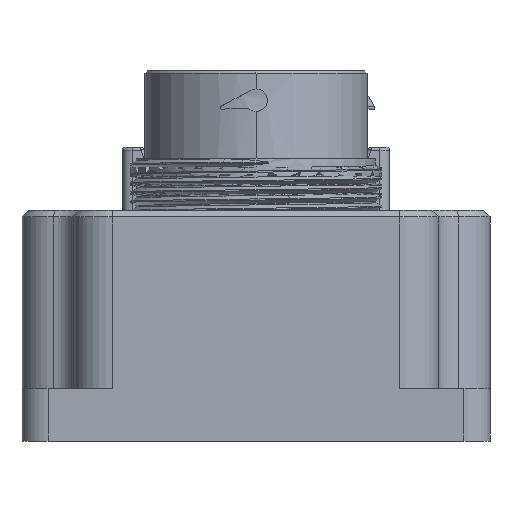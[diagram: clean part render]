
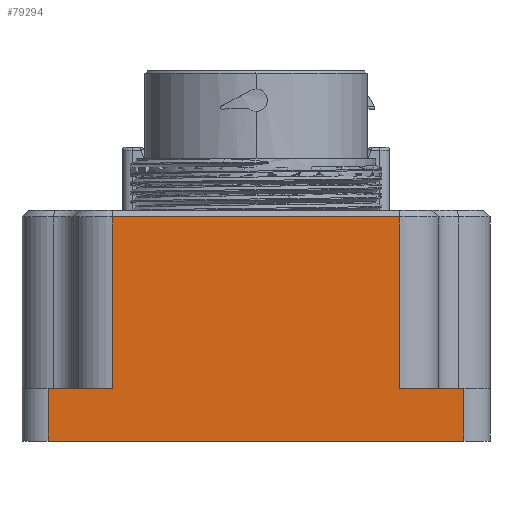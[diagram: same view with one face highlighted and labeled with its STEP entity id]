
A CAD part, left-side view. The second image highlights one B-rep face of the part: STEP entity #79294.
In plain terms, the highlighted planar face has unit normal (-1, 0, 0).
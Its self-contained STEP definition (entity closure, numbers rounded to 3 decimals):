
#3608 = DIRECTION ( 'NONE',  ( 0., 0., -1. ) ) ;
#13719 = CARTESIAN_POINT ( 'NONE',  ( -45., 31.54, 35. ) ) ;
#14210 = ORIENTED_EDGE ( 'NONE', *, *, #126884, .T. ) ;
#17323 = LINE ( 'NONE', #123537, #70939 ) ;
#19452 = CARTESIAN_POINT ( 'NONE',  ( -45., -31.54, 35. ) ) ;
#22773 = LINE ( 'NONE', #79345, #126768 ) ;
#25120 = EDGE_CURVE ( 'NONE', #110256, #104208, #30880, .T. ) ;
#26207 = VECTOR ( 'NONE', #3608, 1000. ) ;
#30880 = LINE ( 'NONE', #120100, #84435 ) ;
#41991 = ORIENTED_EDGE ( 'NONE', *, *, #121735, .F. ) ;
#44794 = VERTEX_POINT ( 'NONE', #96977 ) ;
#45186 = DIRECTION ( 'NONE',  ( 0., 0., -1. ) ) ;
#49735 = EDGE_CURVE ( 'NONE', #98629, #77612, #22773, .T. ) ;
#52779 = VERTEX_POINT ( 'NONE', #111038 ) ;
#53006 = LINE ( 'NONE', #93443, #26207 ) ;
#56446 = CARTESIAN_POINT ( 'NONE',  ( -45., -21.791, 8. ) ) ;
#57953 = VECTOR ( 'NONE', #84240, 1000. ) ;
#58416 = EDGE_CURVE ( 'NONE', #104208, #99811, #117004, .T. ) ;
#58564 = CARTESIAN_POINT ( 'NONE',  ( -45., -31.54, 8. ) ) ;
#61358 = FACE_OUTER_BOUND ( 'NONE', #127784, .T. ) ;
#63227 = DIRECTION ( 'NONE',  ( 0., 1., 0. ) ) ;
#63262 = CARTESIAN_POINT ( 'NONE',  ( -45., -21.791, 258. ) ) ;
#64801 = EDGE_CURVE ( 'NONE', #118653, #52779, #17323, .T. ) ;
#65095 = PLANE ( 'NONE',  #76482 ) ;
#68478 = ORIENTED_EDGE ( 'NONE', *, *, #25120, .F. ) ;
#68554 = CARTESIAN_POINT ( 'NONE',  ( -45., -31.54, 0. ) ) ;
#70939 = VECTOR ( 'NONE', #63227, 1000. ) ;
#75556 = LINE ( 'NONE', #105561, #102440 ) ;
#76482 = AXIS2_PLACEMENT_3D ( 'NONE', #85356, #105648, #45186 ) ;
#77612 = VERTEX_POINT ( 'NONE', #81324 ) ;
#79294 = ADVANCED_FACE ( 'NONE', ( #61358 ), #65095, .F. ) ;
#79345 = CARTESIAN_POINT ( 'NONE',  ( -45., 31.54, 8. ) ) ;
#80274 = DIRECTION ( 'NONE',  ( 0., 0., -1. ) ) ;
#81324 = CARTESIAN_POINT ( 'NONE',  ( -45., 21.791, 8. ) ) ;
#84240 = DIRECTION ( 'NONE',  ( 0., 0., -1. ) ) ;
#84435 = VECTOR ( 'NONE', #129777, 1000. ) ;
#85356 = CARTESIAN_POINT ( 'NONE',  ( -45., 31.54, 35. ) ) ;
#87055 = EDGE_CURVE ( 'NONE', #44794, #99811, #75556, .T. ) ;
#89471 = DIRECTION ( 'NONE',  ( 0., -1., 0. ) ) ;
#90289 = VECTOR ( 'NONE', #80274, 1000. ) ;
#92194 = VECTOR ( 'NONE', #103390, 1000. ) ;
#93443 = CARTESIAN_POINT ( 'NONE',  ( -45., 21.791, 258. ) ) ;
#95021 = ORIENTED_EDGE ( 'NONE', *, *, #87055, .T. ) ;
#96977 = CARTESIAN_POINT ( 'NONE',  ( -45., 31.54, 0. ) ) ;
#98629 = VERTEX_POINT ( 'NONE', #113840 ) ;
#98889 = LINE ( 'NONE', #13719, #57953 ) ;
#99072 = ORIENTED_EDGE ( 'NONE', *, *, #49735, .F. ) ;
#99811 = VERTEX_POINT ( 'NONE', #68554 ) ;
#102440 = VECTOR ( 'NONE', #125712, 1000. ) ;
#103390 = DIRECTION ( 'NONE',  ( 0., 0., -1. ) ) ;
#103963 = ORIENTED_EDGE ( 'NONE', *, *, #58416, .F. ) ;
#104208 = VERTEX_POINT ( 'NONE', #58564 ) ;
#105561 = CARTESIAN_POINT ( 'NONE',  ( -45., 31.54, 0. ) ) ;
#105648 = DIRECTION ( 'NONE',  ( 1., 0., 0. ) ) ;
#109110 = ORIENTED_EDGE ( 'NONE', *, *, #64801, .T. ) ;
#110165 = EDGE_CURVE ( 'NONE', #98629, #44794, #98889, .T. ) ;
#110256 = VERTEX_POINT ( 'NONE', #56446 ) ;
#111038 = CARTESIAN_POINT ( 'NONE',  ( -45., 21.791, 34. ) ) ;
#112609 = ORIENTED_EDGE ( 'NONE', *, *, #110165, .T. ) ;
#113840 = CARTESIAN_POINT ( 'NONE',  ( -45., 31.54, 8. ) ) ;
#114389 = CARTESIAN_POINT ( 'NONE',  ( -45., -21.791, 34. ) ) ;
#115749 = LINE ( 'NONE', #63262, #92194 ) ;
#117004 = LINE ( 'NONE', #19452, #90289 ) ;
#118653 = VERTEX_POINT ( 'NONE', #114389 ) ;
#120100 = CARTESIAN_POINT ( 'NONE',  ( -45., -21.791, 8. ) ) ;
#121735 = EDGE_CURVE ( 'NONE', #118653, #110256, #115749, .T. ) ;
#123537 = CARTESIAN_POINT ( 'NONE',  ( -45., 21.791, 34. ) ) ;
#125712 = DIRECTION ( 'NONE',  ( 0., -1., 0. ) ) ;
#126768 = VECTOR ( 'NONE', #89471, 1000. ) ;
#126884 = EDGE_CURVE ( 'NONE', #52779, #77612, #53006, .T. ) ;
#127784 = EDGE_LOOP ( 'NONE', ( #41991, #109110, #14210, #99072, #112609, #95021, #103963, #68478 ) ) ;
#129777 = DIRECTION ( 'NONE',  ( 0., -1., 0. ) ) ;
